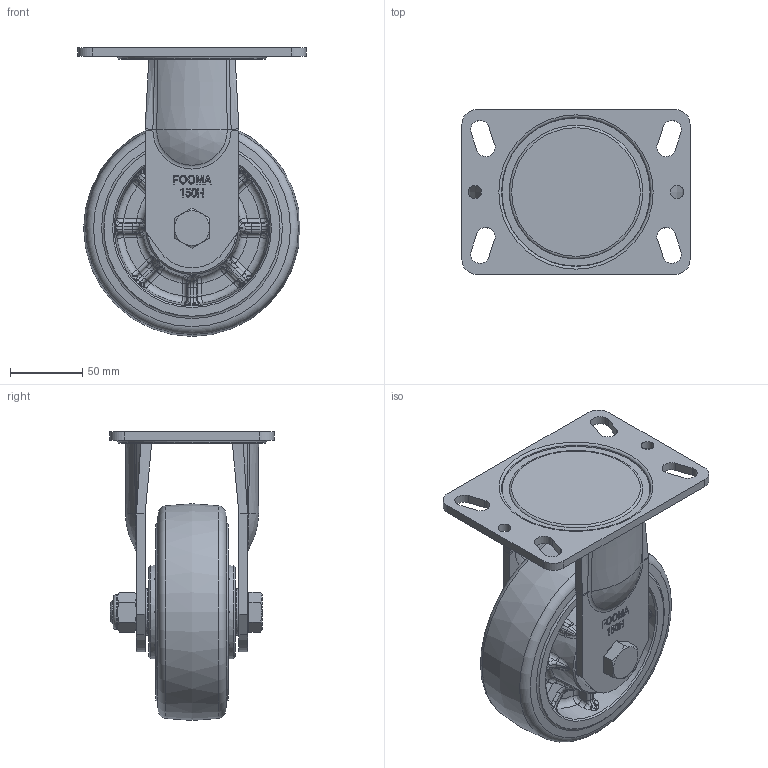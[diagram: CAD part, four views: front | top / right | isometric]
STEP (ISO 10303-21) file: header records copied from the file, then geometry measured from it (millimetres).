
FILE_DESCRIPTION(/* description */ (''),/* implementation_level */ '2;1');
FILE_NAME(/* name */ 'Y:\1.기술연구소\2.연구개발 진행중\94.PLM 고하중 개발\1.도면\3D\홈페이지용 3D\GHP-150-ARF-MUD.stp',/* time_stamp */ '2024-04-24T13:07:54+09:00',/* author */ ('장용하'),/* organization */ (''),/* preprocessor_version */ 'ST-DEVELOPER v18.1',/* originating_system */ 'Autodesk Inventor 2021',/* authorisation */ '');
FILE_SCHEMA (('AUTOMOTIVE_DESIGN { 1 0 10303 214 3 1 1 }'));
Products named in the file (1): GHP-150-ARF-MUD_Shrinkwrap_1
Bounding box: 158 x 114 x 200 mm (x, y, z)
Volume: 907063.8 mm3; surface area: 155806.7 mm2
Topology: 1 solids, 1 shells, 1169 faces, 2867 edges, 1736 vertices
Faces by surface type: bspline 601, plane 302, cylinder 181, torus 49, cone 32, sphere 4
Full cylindrical faces by diameter (mm): 9 x2, 16 x1, 22.49 x1, 24 x1, 32 x2
Entity records: 44609 total; most frequent: CARTESIAN_POINT 20378, ORIENTED_EDGE 5726, DIRECTION 3859, EDGE_CURVE 2863, VERTEX_POINT 1736, AXIS2_PLACEMENT_3D 1467, EDGE_LOOP 1223, FACE_OUTER_BOUND 1169
